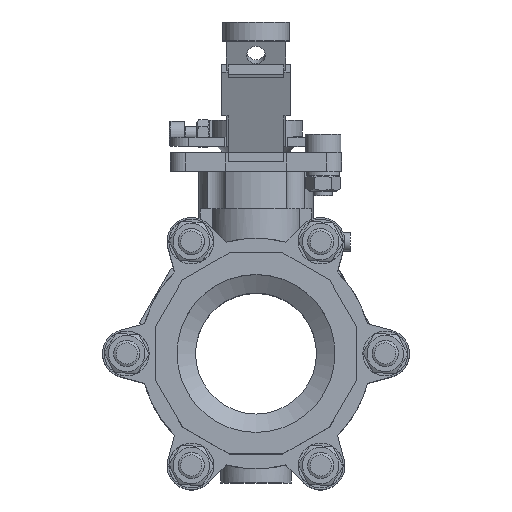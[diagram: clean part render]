
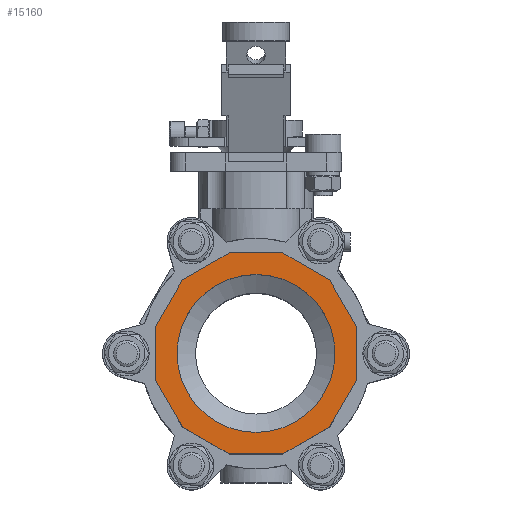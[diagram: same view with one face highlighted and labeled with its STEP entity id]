
A CAD part, top view. The second image highlights one B-rep face of the part: STEP entity #15160.
In plain terms, the highlighted planar face has unit normal (0, 0, 1).
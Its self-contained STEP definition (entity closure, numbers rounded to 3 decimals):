
#504=FACE_BOUND('',#2884,.T.);
#993=PLANE('',#16552);
#1986=FACE_OUTER_BOUND('',#2883,.T.);
#2883=EDGE_LOOP('',(#13635,#13636,#13637,#13638,#13639,#13640,#13641,#13642,
#13643,#13644,#13645,#13646));
#2884=EDGE_LOOP('',(#13647,#13648));
#3571=CIRCLE('',#16538,42.463);
#3572=CIRCLE('',#16539,42.463);
#4719=LINE('',#25995,#5944);
#4722=LINE('',#26001,#5947);
#4725=LINE('',#26007,#5950);
#4728=LINE('',#26013,#5953);
#4731=LINE('',#26019,#5956);
#4734=LINE('',#26025,#5959);
#4737=LINE('',#26031,#5962);
#4740=LINE('',#26037,#5965);
#4743=LINE('',#26043,#5968);
#4746=LINE('',#26049,#5971);
#4749=LINE('',#26055,#5974);
#4752=LINE('',#26059,#5977);
#5944=VECTOR('',#20341,10.);
#5947=VECTOR('',#20346,10.);
#5950=VECTOR('',#20351,10.);
#5953=VECTOR('',#20356,10.);
#5956=VECTOR('',#20361,10.);
#5959=VECTOR('',#20366,10.);
#5962=VECTOR('',#20371,10.);
#5965=VECTOR('',#20376,10.);
#5968=VECTOR('',#20381,10.);
#5971=VECTOR('',#20386,10.);
#5974=VECTOR('',#20391,10.);
#5977=VECTOR('',#20396,10.);
#7398=VERTEX_POINT('',#25983);
#7399=VERTEX_POINT('',#25985);
#7402=VERTEX_POINT('',#25992);
#7403=VERTEX_POINT('',#25994);
#7405=VERTEX_POINT('',#26000);
#7407=VERTEX_POINT('',#26006);
#7409=VERTEX_POINT('',#26012);
#7411=VERTEX_POINT('',#26018);
#7413=VERTEX_POINT('',#26024);
#7415=VERTEX_POINT('',#26030);
#7417=VERTEX_POINT('',#26036);
#7419=VERTEX_POINT('',#26042);
#7421=VERTEX_POINT('',#26048);
#7423=VERTEX_POINT('',#26054);
#9509=EDGE_CURVE('',#7399,#7398,#3571,.T.);
#9510=EDGE_CURVE('',#7398,#7399,#3572,.T.);
#9513=EDGE_CURVE('',#7403,#7402,#4719,.T.);
#9516=EDGE_CURVE('',#7405,#7403,#4722,.T.);
#9519=EDGE_CURVE('',#7407,#7405,#4725,.T.);
#9522=EDGE_CURVE('',#7409,#7407,#4728,.T.);
#9525=EDGE_CURVE('',#7411,#7409,#4731,.T.);
#9528=EDGE_CURVE('',#7413,#7411,#4734,.T.);
#9531=EDGE_CURVE('',#7415,#7413,#4737,.T.);
#9534=EDGE_CURVE('',#7417,#7415,#4740,.T.);
#9537=EDGE_CURVE('',#7419,#7417,#4743,.T.);
#9540=EDGE_CURVE('',#7421,#7419,#4746,.T.);
#9543=EDGE_CURVE('',#7423,#7421,#4749,.T.);
#9546=EDGE_CURVE('',#7402,#7423,#4752,.T.);
#13635=ORIENTED_EDGE('',*,*,#9546,.T.);
#13636=ORIENTED_EDGE('',*,*,#9543,.T.);
#13637=ORIENTED_EDGE('',*,*,#9540,.T.);
#13638=ORIENTED_EDGE('',*,*,#9537,.T.);
#13639=ORIENTED_EDGE('',*,*,#9534,.T.);
#13640=ORIENTED_EDGE('',*,*,#9531,.T.);
#13641=ORIENTED_EDGE('',*,*,#9528,.T.);
#13642=ORIENTED_EDGE('',*,*,#9525,.T.);
#13643=ORIENTED_EDGE('',*,*,#9522,.T.);
#13644=ORIENTED_EDGE('',*,*,#9519,.T.);
#13645=ORIENTED_EDGE('',*,*,#9516,.T.);
#13646=ORIENTED_EDGE('',*,*,#9513,.T.);
#13647=ORIENTED_EDGE('',*,*,#9509,.T.);
#13648=ORIENTED_EDGE('',*,*,#9510,.T.);
#15160=ADVANCED_FACE('',(#1986,#504),#993,.T.);
#16538=AXIS2_PLACEMENT_3D('',#25986,#20333,#20334);
#16539=AXIS2_PLACEMENT_3D('',#25987,#20335,#20336);
#16552=AXIS2_PLACEMENT_3D('',#26060,#20397,#20398);
#20333=DIRECTION('center_axis',(0.,0.,-1.));
#20334=DIRECTION('ref_axis',(-0.866,0.5,0.));
#20335=DIRECTION('center_axis',(0.,0.,-1.));
#20336=DIRECTION('ref_axis',(-0.866,0.5,0.));
#20341=DIRECTION('',(0.,-1.,0.));
#20346=DIRECTION('',(-0.5,-0.866,0.));
#20351=DIRECTION('',(-0.866,-0.5,0.));
#20356=DIRECTION('',(-1.,0.,0.));
#20361=DIRECTION('',(-0.866,0.5,0.));
#20366=DIRECTION('',(-0.5,0.866,0.));
#20371=DIRECTION('',(0.,1.,0.));
#20376=DIRECTION('',(0.5,0.866,0.));
#20381=DIRECTION('',(0.866,0.5,0.));
#20386=DIRECTION('',(1.,0.,0.));
#20391=DIRECTION('',(0.866,-0.5,0.));
#20396=DIRECTION('',(0.5,-0.866,0.));
#20397=DIRECTION('center_axis',(0.,0.,1.));
#20398=DIRECTION('ref_axis',(-0.866,0.5,0.));
#25983=CARTESIAN_POINT('',(22.955,-25.896,92.5));
#25985=CARTESIAN_POINT('',(-50.593,16.567,92.5));
#25986=CARTESIAN_POINT('Origin',(-13.819,-4.664,92.5));
#25987=CARTESIAN_POINT('Origin',(-13.819,-4.664,92.5));
#25992=CARTESIAN_POINT('',(-67.819,-19.133,92.5));
#25994=CARTESIAN_POINT('',(-67.819,9.805,92.5));
#25995=CARTESIAN_POINT('',(-67.819,-19.133,92.5));
#26000=CARTESIAN_POINT('',(-53.35,34.867,92.5));
#26001=CARTESIAN_POINT('',(-67.819,9.805,92.5));
#26006=CARTESIAN_POINT('',(-28.289,49.336,92.5));
#26007=CARTESIAN_POINT('',(-53.35,34.867,92.5));
#26012=CARTESIAN_POINT('',(0.65,49.336,92.5));
#26013=CARTESIAN_POINT('',(-28.289,49.336,92.5));
#26018=CARTESIAN_POINT('',(25.711,34.867,92.5));
#26019=CARTESIAN_POINT('',(0.65,49.336,92.5));
#26024=CARTESIAN_POINT('',(40.181,9.805,92.5));
#26025=CARTESIAN_POINT('',(25.711,34.867,92.5));
#26030=CARTESIAN_POINT('',(40.181,-19.133,92.5));
#26031=CARTESIAN_POINT('',(40.181,9.805,92.5));
#26036=CARTESIAN_POINT('',(25.711,-44.195,92.5));
#26037=CARTESIAN_POINT('',(40.181,-19.133,92.5));
#26042=CARTESIAN_POINT('',(0.65,-58.664,92.5));
#26043=CARTESIAN_POINT('',(25.711,-44.195,92.5));
#26048=CARTESIAN_POINT('',(-28.289,-58.664,92.5));
#26049=CARTESIAN_POINT('',(0.65,-58.664,92.5));
#26054=CARTESIAN_POINT('',(-53.35,-44.195,92.5));
#26055=CARTESIAN_POINT('',(-28.289,-58.664,92.5));
#26059=CARTESIAN_POINT('',(-53.35,-44.195,92.5));
#26060=CARTESIAN_POINT('Origin',(-13.819,-4.664,92.5));
